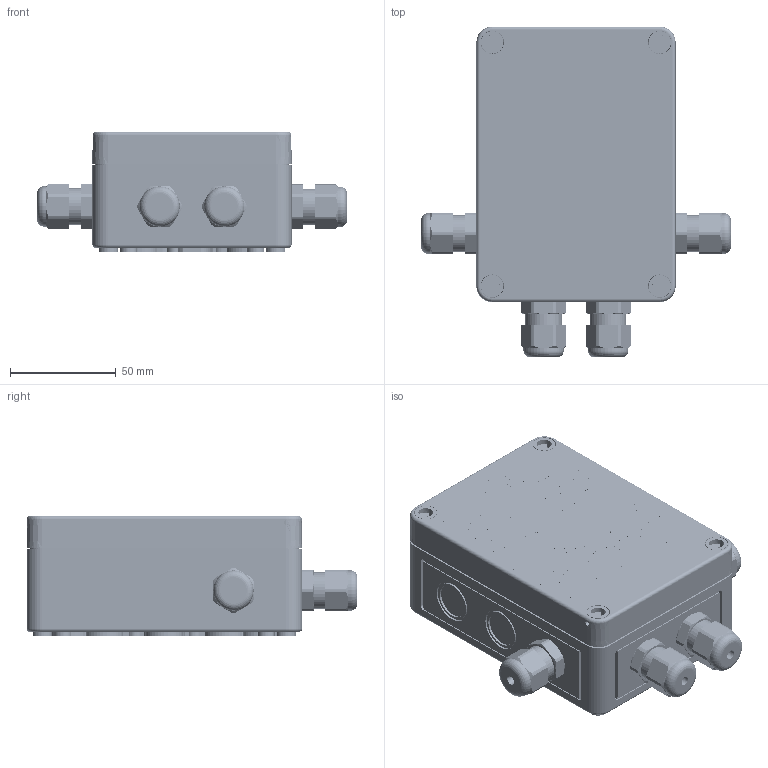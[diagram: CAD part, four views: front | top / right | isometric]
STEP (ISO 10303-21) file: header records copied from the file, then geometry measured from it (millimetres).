
FILE_DESCRIPTION (( 'STEP AP214' ), '1' );
FILE_NAME ('12670-1901-00.STEP', '2018-11-13T07:52:32', ( '' ), ( '' ), 'SwSTEP 2.0', 'SolidWorks 2018', '' );
FILE_SCHEMA (( 'AUTOMOTIVE_DESIGN' ));
Length unit declared in the file: millimetre
Products named in the file (51): 12670-1901-00; Relais_RY211012R_12V_8105124; H5; LED_1608__gn__SML310MT.gn__8012096.3; User_Library-LTST-C190EKT_Pad004; H7; K1; X8 - sr21504dbnc^Platine; User_Library-LTST-C190EKT_Pad003; User_Library-LTST-C190EKT_Lens; User_Library-LTST-C190EKT_Pad004_2; LED_1608_rot; User_Library-LTST-C190EKT_Lens_2; X10 - sr21504dbnc^Platine; User_Library-LTST-C190EKT_Pad004_3; DIP_Schalter_6-fach_2,54mm; Relais_RY2; LED_1608_gelb; Platine; H2; User_Library-LTST-C190EKT_Pad; H6; User_Library-LTST-C190EKT_Pad_2; Dip-Schalter__6-fach__RM2,54__8107281; Unterteil TK1309_m_2^12670-1901-00; User_Library-LTST-C190EKT_Pad001; H3; X11 - sr21504dbnc^Platine; S1; Board; User_Library-LTST-C190EKT_Pad003_3; User_Library-LTST-C190EKT_Pad003_2; LED_1608__rt__SML310LT.rt__8012098.3; H4; Deckel TK1309_6_t_4^12670-1901-00; SKINTOP_ST_M_16x1_5______Art__Nr__53111210_F_4_5_^12670-1901-00; LED_1608_gr黱; X99 - sr21504dbnc^Platine; LED_1608__ge__SML311YT.ge__8012097.3; 12670-1200-01_3D^12670-1901-00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
Assembly tree (63 placements, depth 6):
  12670-1901-00
    Unterteil TK1309_m_2^12670-1901-00
    Deckel TK1309_6_t_4^12670-1901-00
    Schraube_TK34mm_schwarz_6^12670-1901-00  x4
    Platine
      H2
        LED_1608__gn__SML310MT.gn__8012096.3
          LED_1608_gr黱
            User_Library-LTST-C190EKT_Pad_2
            User_Library-LTST-C190EKT_Pad005_2
            User_Library-LTST-C190EKT_Pad001_2
            User_Library-LTST-C190EKT_Pad004_2
            User_Library-LTST-C190EKT_Pad003_2
            User_Library-LTST-C190EKT_Lens_2
      Board
        SOLID_20
      K1
        Relais_RY211012R_12V_8105124
          Relais_RY2
      H4
        LED_1608__ge__SML311YT.ge__8012097.3
          LED_1608_gelb
            User_Library-LTST-C190EKT_Pad
            User_Library-LTST-C190EKT_Pad005
            User_Library-LTST-C190EKT_Pad001
            User_Library-LTST-C190EKT_Pad004
            User_Library-LTST-C190EKT_Pad003
            User_Library-LTST-C190EKT_Lens
      S1
        Dip-Schalter__6-fach__RM2,54__8107281
          DIP_Schalter_6-fach_2,54mm
      H6
        LED_1608__ge__SML311YT.ge__8012097.3
          LED_1608_gelb
            User_Library-LTST-C190EKT_Pad
            User_Library-LTST-C190EKT_Pad005
            User_Library-LTST-C190EKT_Pad001
            User_Library-LTST-C190EKT_Pad004
            User_Library-LTST-C190EKT_Pad003
            User_Library-LTST-C190EKT_Lens
      H3
        LED_1608__rt__SML310LT.rt__8012098.3
          LED_1608_rot
            User_Library-LTST-C190EKT_Pad_3
            User_Library-LTST-C190EKT_Pad005_3
            User_Library-LTST-C190EKT_Pad001_3
            User_Library-LTST-C190EKT_Pad004_3
            User_Library-LTST-C190EKT_Pad003_3
            User_Library-LTST-C190EKT_Lens_3
      H5
        LED_1608__ge__SML311YT.ge__8012097.3
          LED_1608_gelb
            User_Library-LTST-C190EKT_Pad
            User_Library-LTST-C190EKT_Pad005
            User_Library-LTST-C190EKT_Pad001
            User_Library-LTST-C190EKT_Pad004
            User_Library-LTST-C190EKT_Pad003
            User_Library-LTST-C190EKT_Lens
      H7
        LED_1608__ge__SML311YT.ge__8012097.3
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Bounding box: 146.26 x 156.11 x 56.71 mm (x, y, z)
Volume: 197392.9 mm3; surface area: 162283.9 mm2
Topology: 511 solids, 570 shells, 9075 faces, 22058 edges, 14122 vertices
Faces by surface type: plane 5863, bspline 1578, cylinder 1382, cone 226, torus 24, sphere 2
Entity records: 304026 total; most frequent: CARTESIAN_POINT 86740, ORIENTED_EDGE 39788, DIRECTION 33174, EDGE_CURVE 19894, LINE 14274, VECTOR 14274, VERTEX_POINT 12834, AXIS2_PLACEMENT_3D 9450
